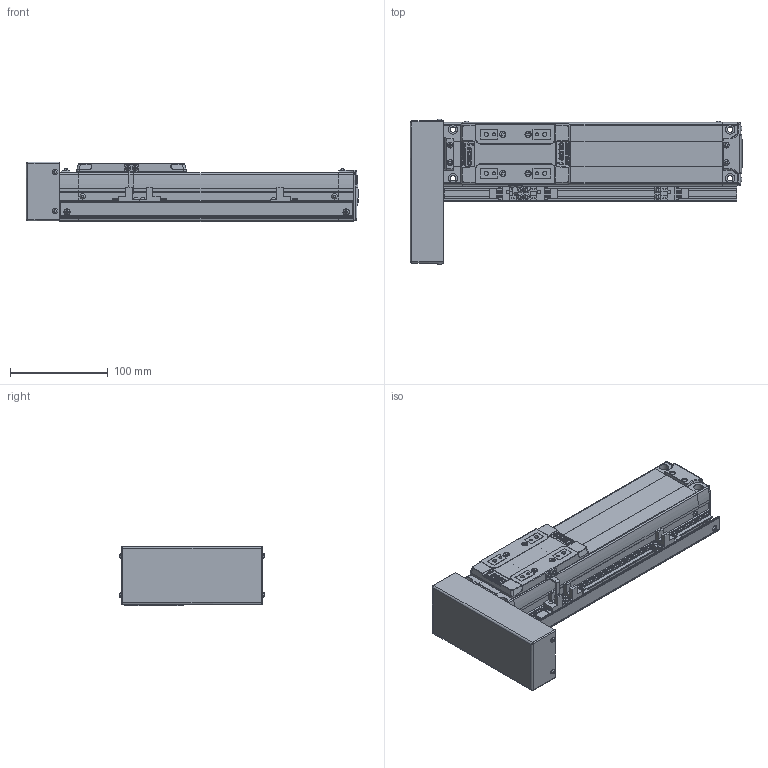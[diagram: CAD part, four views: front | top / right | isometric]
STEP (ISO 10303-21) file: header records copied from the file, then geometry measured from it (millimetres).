
FILE_DESCRIPTION(('STEP AP214'),'1');
FILE_NAME('Z:/Web/3D/SAN65/STP/SAN65ㅁㅁ-150PR+3SR.stp','2012-06-14T04:07:52',(' '),(' '),'Spatial InterOp 3D',' ',' ');
FILE_SCHEMA(('automotive_design'));
Length unit declared in the file: metre
Products named in the file (57): SAN65__-150; BODY-SAN65; REAR-SAN65; RRCV-SAN65; 스크루 : Round - M3.0 x 6.0; FRONT-SAN65; SHAFT-SAN65; RN8 x 0.75; SSFX-SAN65; SLIDE-SAN65; SLCV-SAN65; 스크루 : Countersunk - M3.0 x 6.0; ____206; PR; BTCV-SAN65; BHCS M3 X 6L; 3SR; SRL-16x17-450L; - OT; EE-SX674; SBK-SX674-352; HOME; + OT; DOG; SDG-SAN65; 스크루 : Round - M3.0 x 5.0
Assembly tree (56 placements, depth 4):
  ____206
    SAN65__-150
      BODY-SAN65
      REAR-SAN65
        REAR-SAN65
        RRCV-SAN65
        스크루 : Round - M3.0 x 6.0
        스크루 : Round - M3.0 x 6.0
        스크루 : Round - M3.0 x 6.0
        스크루 : Round - M3.0 x 6.0
        스크루 : Round - M3.0 x 6.0
        스크루 : Round - M3.0 x 6.0
      FRONT-SAN65
        FRONT-SAN65
        SHAFT-SAN65
        RN8 x 0.75
        SSFX-SAN65
        스크루 : Round - M3.0 x 6.0
        스크루 : Round - M3.0 x 6.0
        스크루 : Round - M3.0 x 6.0
        스크루 : Round - M3.0 x 6.0
      SLIDE-SAN65
        SLIDE-SAN65
        SLCV-SAN65
        스크루 : Countersunk - M3.0 x 6.0
        스크루 : Countersunk - M3.0 x 6.0
        스크루 : Countersunk - M3.0 x 6.0
        스크루 : Countersunk - M3.0 x 6.0
    PR
      BTCV-SAN65
      BHCS M3 X 6L
      BHCS M3 X 6L
      BHCS M3 X 6L
      BHCS M3 X 6L
    3SR
      SRL-16x17-450L
      스크루 : Round - M3.0 x 6.0
      스크루 : Round - M3.0 x 6.0
      - OT
        EE-SX674
        SBK-SX674-352
        스크루 : Round - M3.0 x 6.0
        스크루 : Round - M3.0 x 6.0
      HOME
        EE-SX674
        SBK-SX674-352
        스크루 : Round - M3.0 x 6.0
        스크루 : Round - M3.0 x 6.0
      + OT
        EE-SX674
        SBK-SX674-352
        스크루 : Round - M3.0 x 6.0
        스크루 : Round - M3.0 x 6.0
      DOG
        SDG-SAN65
        스크루 : Round - M3.0 x 5.0
        스크루 : Round - M3.0 x 5.0
Bounding box: 340.15 x 149.13 x 61 mm (x, y, z)
Volume: 1313294.9 mm3; surface area: 223093 mm2
Topology: 46 solids, 46 shells, 1931 faces, 4922 edges, 3210 vertices
Faces by surface type: plane 1292, cylinder 472, cone 83, sphere 36, bspline 30, torus 15, extrusion 3
Full cylindrical faces by diameter (mm): 0.571 x2, 0.706 x1, 1.727 x2, 2.132 x1, 2.2 x4, 2.5 x15, 2.528 x4, 3 x6, 3.121 x2, 3.3 x4, 3.4 x8, 3.5 x14, 4.2 x18, 4.849 x4, 5 x3, 5.5 x4, 5.987 x2, 6 x6, 6.35 x1, 6.5 x2, 7 x1, 8 x4, 9.5 x4, 13 x1, 15 x1, 19 x1, 26 x1, 38.1 x1
Entity records: 77993 total; most frequent: CARTESIAN_POINT 14871, DIRECTION 9689, ORIENTED_EDGE 9236, EDGE_CURVE 4618, VECTOR 3273, LINE 3270, AXIS2_PLACEMENT_3D 3208, VERTEX_POINT 3150
